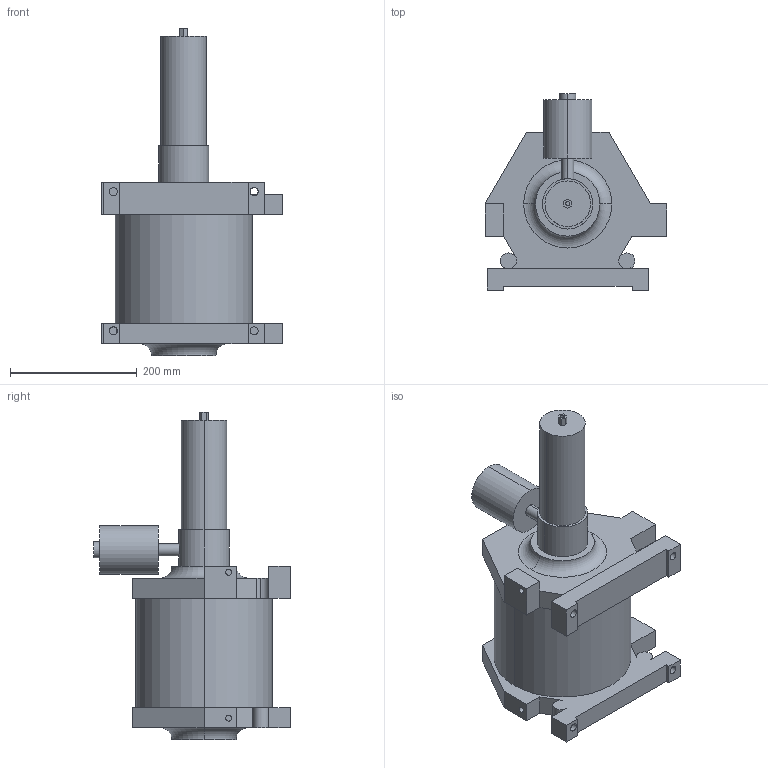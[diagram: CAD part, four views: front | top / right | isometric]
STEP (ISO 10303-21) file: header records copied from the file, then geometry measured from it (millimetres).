
FILE_DESCRIPTION (( 'STEP AP214' ), '1' );
FILE_NAME ('AHDEFAU0523104302546.step', '2006-05-23T14:43:01', ( 'SysAdmin' ), ( 'Solidworks Corporation' ), 'SwSTEP 2.0', 'SolidWorks 2006116', '' );
FILE_SCHEMA (( 'AUTOMOTIVE_DESIGN' ));
Length unit declared in the file: inch
Products named in the file (1): AHDEFAU0523104302546
Bounding box: 287.13 x 309.88 x 516.64 mm (x, y, z)
Volume: 11648268 mm3; surface area: 446615.5 mm2
Topology: 1 solids, 1 shells, 99 faces, 250 edges, 166 vertices
Faces by surface type: plane 62, cylinder 33, torus 4
Entity records: 3121 total; most frequent: CARTESIAN_POINT 614, DIRECTION 524, ORIENTED_EDGE 500, EDGE_CURVE 250, AXIS2_PLACEMENT_3D 176, LINE 172, VECTOR 172, VERTEX_POINT 166
